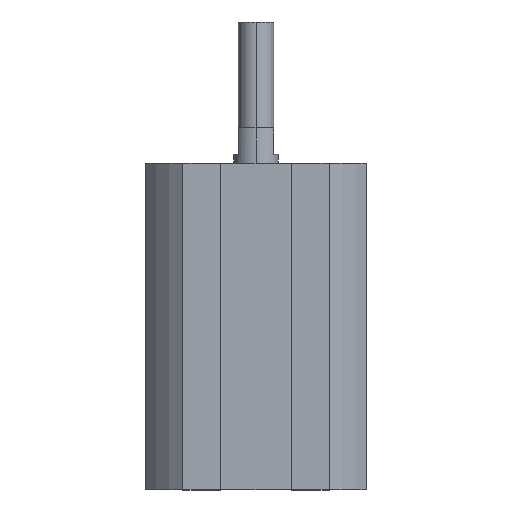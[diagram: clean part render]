
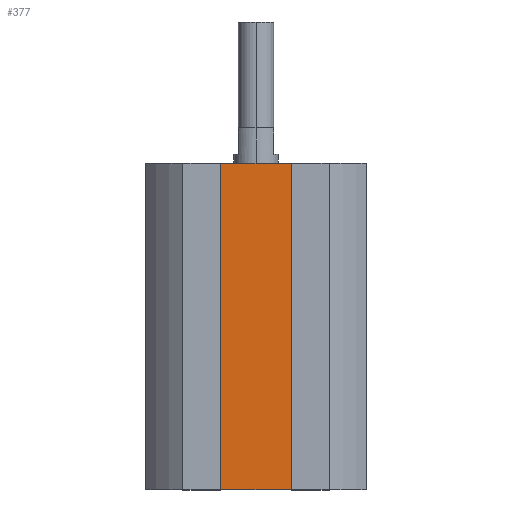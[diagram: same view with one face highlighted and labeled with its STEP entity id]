
A CAD part, top view. The second image highlights one B-rep face of the part: STEP entity #377.
In plain terms, the highlighted planar face has unit normal (0, 0, 1).
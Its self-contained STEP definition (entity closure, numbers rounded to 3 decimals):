
#13 = DIRECTION ( 'NONE',  ( 0., 1., 0. ) ) ;
#20 = VERTEX_POINT ( 'NONE', #1422 ) ;
#67 = DIRECTION ( 'NONE',  ( 1., 0., 0. ) ) ;
#105 = LINE ( 'NONE', #438, #255 ) ;
#176 = ORIENTED_EDGE ( 'NONE', *, *, #2230, .T. ) ;
#221 = EDGE_CURVE ( 'NONE', #2129, #951, #1856, .T. ) ;
#246 = DIRECTION ( 'NONE',  ( 0., 0., 1. ) ) ;
#255 = VECTOR ( 'NONE', #840, 1000. ) ;
#361 = ORIENTED_EDGE ( 'NONE', *, *, #1425, .F. ) ;
#365 = LINE ( 'NONE', #2263, #1602 ) ;
#377 = ADVANCED_FACE ( 'NONE', ( #1826 ), #1726, .T. ) ;
#389 = EDGE_CURVE ( 'NONE', #20, #2274, #365, .T. ) ;
#412 = DIRECTION ( 'NONE',  ( 0., 1., 0. ) ) ;
#426 = LINE ( 'NONE', #2334, #542 ) ;
#433 = CARTESIAN_POINT ( 'NONE',  ( 0., -37., 7.8 ) ) ;
#438 = CARTESIAN_POINT ( 'NONE',  ( 0., -37., 7.8 ) ) ;
#542 = VECTOR ( 'NONE', #1081, 1000. ) ;
#619 = CARTESIAN_POINT ( 'NONE',  ( -4., -37., 7.8 ) ) ;
#674 = ORIENTED_EDGE ( 'NONE', *, *, #389, .T. ) ;
#765 = CARTESIAN_POINT ( 'NONE',  ( -4., -37., 7.8 ) ) ;
#840 = DIRECTION ( 'NONE',  ( 1., 0., 0. ) ) ;
#951 = VERTEX_POINT ( 'NONE', #2036 ) ;
#1081 = DIRECTION ( 'NONE',  ( 1., 0., 0. ) ) ;
#1317 = ORIENTED_EDGE ( 'NONE', *, *, #221, .F. ) ;
#1422 = CARTESIAN_POINT ( 'NONE',  ( 4., -37., 7.8 ) ) ;
#1425 = EDGE_CURVE ( 'NONE', #951, #2274, #426, .T. ) ;
#1602 = VECTOR ( 'NONE', #412, 1000. ) ;
#1651 = AXIS2_PLACEMENT_3D ( 'NONE', #433, #246, #67 ) ;
#1726 = PLANE ( 'NONE',  #1651 ) ;
#1826 = FACE_OUTER_BOUND ( 'NONE', #2044, .T. ) ;
#1856 = LINE ( 'NONE', #765, #2191 ) ;
#2036 = CARTESIAN_POINT ( 'NONE',  ( -4., 0., 7.8 ) ) ;
#2044 = EDGE_LOOP ( 'NONE', ( #361, #1317, #176, #674 ) ) ;
#2129 = VERTEX_POINT ( 'NONE', #619 ) ;
#2191 = VECTOR ( 'NONE', #13, 1000. ) ;
#2230 = EDGE_CURVE ( 'NONE', #2129, #20, #105, .T. ) ;
#2263 = CARTESIAN_POINT ( 'NONE',  ( 4., -37., 7.8 ) ) ;
#2269 = CARTESIAN_POINT ( 'NONE',  ( 4., 0., 7.8 ) ) ;
#2274 = VERTEX_POINT ( 'NONE', #2269 ) ;
#2334 = CARTESIAN_POINT ( 'NONE',  ( 0., 0., 7.8 ) ) ;
